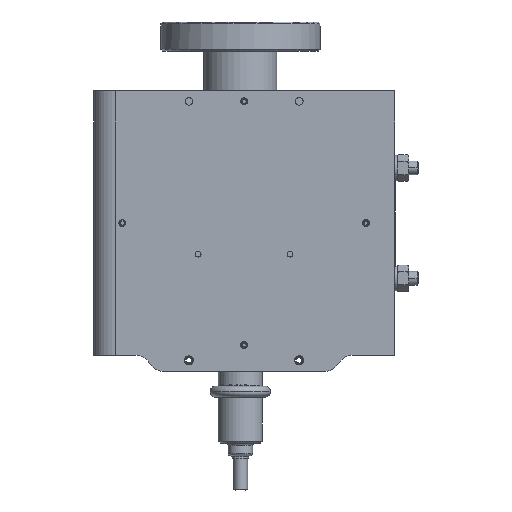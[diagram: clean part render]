
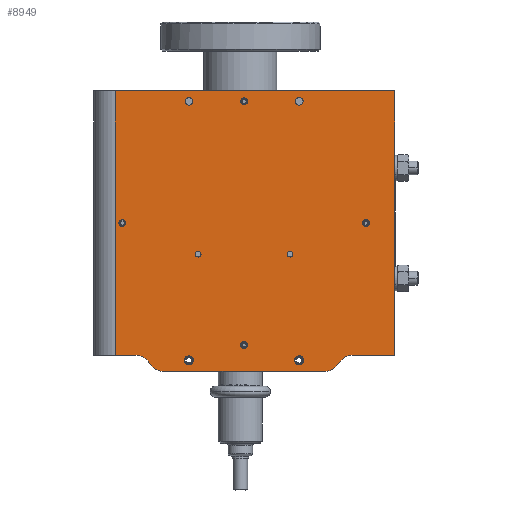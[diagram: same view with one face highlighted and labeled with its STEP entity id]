
A CAD part, front view. The second image highlights one B-rep face of the part: STEP entity #8949.
In plain terms, the highlighted planar face has unit normal (0, -1, 0).
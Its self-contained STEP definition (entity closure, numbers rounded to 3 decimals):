
#37=CARTESIAN_POINT('',(30.524,3.446,-145.));
#38=DIRECTION('',(0.,-1.,0.));
#39=DIRECTION('',(-0.866,0.,-0.5));
#40=AXIS2_PLACEMENT_3D('',#37,#38,#39);
#42=DIRECTION('',(1.,0.,0.));
#43=VECTOR('',#42,8.875);
#44=CARTESIAN_POINT('',(9.525,3.446,-145.));
#45=LINE('',#44,#43);
#46=DIRECTION('',(-1.,0.,0.));
#47=VECTOR('',#46,18.4);
#48=CARTESIAN_POINT('',(131.,3.446,-145.));
#49=LINE('',#48,#47);
#50=CARTESIAN_POINT('',(100.476,3.446,-145.));
#51=DIRECTION('',(0.,-1.,0.));
#52=DIRECTION('',(0.,0.,-1.));
#53=AXIS2_PLACEMENT_3D('',#50,#51,#52);
#55=DIRECTION('',(-1.,0.,0.));
#56=VECTOR('',#55,69.951);
#57=CARTESIAN_POINT('',(100.476,3.446,-152.));
#58=LINE('',#57,#56);
#59=CARTESIAN_POINT('',(12.5,3.446,-87.5));
#60=DIRECTION('',(0.,1.,0.));
#61=DIRECTION('',(-1.,0.,0.));
#62=AXIS2_PLACEMENT_3D('',#59,#60,#61);
#64=CARTESIAN_POINT('',(12.5,3.446,-87.5));
#65=DIRECTION('',(0.,1.,0.));
#66=DIRECTION('',(1.,0.,0.));
#67=AXIS2_PLACEMENT_3D('',#64,#65,#66);
#69=CARTESIAN_POINT('',(65.5,3.446,-140.5));
#70=DIRECTION('',(0.,1.,0.));
#71=DIRECTION('',(-1.,0.,0.));
#72=AXIS2_PLACEMENT_3D('',#69,#70,#71);
#74=CARTESIAN_POINT('',(65.5,3.446,-140.5));
#75=DIRECTION('',(0.,1.,0.));
#76=DIRECTION('',(1.,0.,0.));
#77=AXIS2_PLACEMENT_3D('',#74,#75,#76);
#79=CARTESIAN_POINT('',(65.5,3.446,-34.5));
#80=DIRECTION('',(0.,1.,0.));
#81=DIRECTION('',(-1.,0.,0.));
#82=AXIS2_PLACEMENT_3D('',#79,#80,#81);
#84=CARTESIAN_POINT('',(65.5,3.446,-34.5));
#85=DIRECTION('',(0.,1.,0.));
#86=DIRECTION('',(1.,0.,0.));
#87=AXIS2_PLACEMENT_3D('',#84,#85,#86);
#89=CARTESIAN_POINT('',(118.5,3.446,-87.5));
#90=DIRECTION('',(0.,1.,0.));
#91=DIRECTION('',(-1.,0.,0.));
#92=AXIS2_PLACEMENT_3D('',#89,#90,#91);
#94=CARTESIAN_POINT('',(118.5,3.446,-87.5));
#95=DIRECTION('',(0.,1.,0.));
#96=DIRECTION('',(1.,0.,0.));
#97=AXIS2_PLACEMENT_3D('',#94,#95,#96);
#99=CARTESIAN_POINT('',(89.5,3.446,-34.5));
#100=DIRECTION('',(0.,1.,0.));
#101=DIRECTION('',(-1.,0.,0.));
#102=AXIS2_PLACEMENT_3D('',#99,#100,#101);
#104=CARTESIAN_POINT('',(89.5,3.446,-34.5));
#105=DIRECTION('',(0.,1.,0.));
#106=DIRECTION('',(1.,0.,0.));
#107=AXIS2_PLACEMENT_3D('',#104,#105,#106);
#109=CARTESIAN_POINT('',(41.5,3.446,-34.5));
#110=DIRECTION('',(0.,1.,0.));
#111=DIRECTION('',(-1.,0.,0.));
#112=AXIS2_PLACEMENT_3D('',#109,#110,#111);
#114=CARTESIAN_POINT('',(41.5,3.446,-34.5));
#115=DIRECTION('',(0.,1.,0.));
#116=DIRECTION('',(1.,0.,0.));
#117=AXIS2_PLACEMENT_3D('',#114,#115,#116);
#119=CARTESIAN_POINT('',(85.5,3.446,-101.));
#120=DIRECTION('',(0.,1.,0.));
#121=DIRECTION('',(-1.,0.,0.));
#122=AXIS2_PLACEMENT_3D('',#119,#120,#121);
#124=CARTESIAN_POINT('',(85.5,3.446,-101.));
#125=DIRECTION('',(0.,1.,0.));
#126=DIRECTION('',(1.,0.,0.));
#127=AXIS2_PLACEMENT_3D('',#124,#125,#126);
#129=CARTESIAN_POINT('',(45.5,3.446,-101.));
#130=DIRECTION('',(0.,1.,0.));
#131=DIRECTION('',(-1.,0.,0.));
#132=AXIS2_PLACEMENT_3D('',#129,#130,#131);
#134=CARTESIAN_POINT('',(45.5,3.446,-101.));
#135=DIRECTION('',(0.,1.,0.));
#136=DIRECTION('',(1.,0.,0.));
#137=AXIS2_PLACEMENT_3D('',#134,#135,#136);
#139=CARTESIAN_POINT('',(41.5,3.446,-147.2));
#140=DIRECTION('',(0.,1.,0.));
#141=DIRECTION('',(-1.,0.,0.));
#142=AXIS2_PLACEMENT_3D('',#139,#140,#141);
#144=CARTESIAN_POINT('',(41.5,3.446,-147.2));
#145=DIRECTION('',(0.,1.,0.));
#146=DIRECTION('',(1.,0.,0.));
#147=AXIS2_PLACEMENT_3D('',#144,#145,#146);
#149=CARTESIAN_POINT('',(89.5,3.446,-147.2));
#150=DIRECTION('',(0.,1.,0.));
#151=DIRECTION('',(-1.,0.,0.));
#152=AXIS2_PLACEMENT_3D('',#149,#150,#151);
#154=CARTESIAN_POINT('',(89.5,3.446,-147.2));
#155=DIRECTION('',(0.,1.,0.));
#156=DIRECTION('',(1.,0.,0.));
#157=AXIS2_PLACEMENT_3D('',#154,#155,#156);
#331=CARTESIAN_POINT('',(112.6,3.446,-152.));
#332=DIRECTION('',(0.,1.,0.));
#333=DIRECTION('',(-0.866,0.,0.5));
#334=AXIS2_PLACEMENT_3D('',#331,#332,#333);
#349=DIRECTION('',(0.,0.,1.));
#350=VECTOR('',#349,115.);
#351=CARTESIAN_POINT('',(131.,3.446,-145.));
#352=LINE('',#351,#350);
#413=DIRECTION('',(1.,0.,0.));
#414=VECTOR('',#413,121.475);
#415=CARTESIAN_POINT('',(9.525,3.446,-30.));
#416=LINE('',#415,#414);
#452=DIRECTION('',(0.,0.,-1.));
#453=VECTOR('',#452,115.);
#454=CARTESIAN_POINT('',(9.525,3.446,-30.));
#455=LINE('',#454,#453);
#3362=CARTESIAN_POINT('',(18.4,3.446,-152.));
#3363=DIRECTION('',(0.,1.,0.));
#3364=DIRECTION('',(0.,0.,1.));
#3365=AXIS2_PLACEMENT_3D('',#3362,#3363,#3364);
#7958=CARTESIAN_POINT('',(9.525,3.446,-30.));
#7960=VERTEX_POINT('',#7958);
#7961=CARTESIAN_POINT('',(131.,3.446,-30.));
#7962=VERTEX_POINT('',#7961);
#7967=CARTESIAN_POINT('',(11.,3.446,-87.5));
#7968=CARTESIAN_POINT('',(14.,3.446,-87.5));
#7969=VERTEX_POINT('',#7967);
#7970=VERTEX_POINT('',#7968);
#7971=CARTESIAN_POINT('',(64.,3.446,-140.5));
#7972=CARTESIAN_POINT('',(67.,3.446,-140.5));
#7973=VERTEX_POINT('',#7971);
#7974=VERTEX_POINT('',#7972);
#7975=CARTESIAN_POINT('',(64.,3.446,-34.5));
#7976=CARTESIAN_POINT('',(67.,3.446,-34.5));
#7977=VERTEX_POINT('',#7975);
#7978=VERTEX_POINT('',#7976);
#7979=CARTESIAN_POINT('',(117.,3.446,-87.5));
#7980=CARTESIAN_POINT('',(120.,3.446,-87.5));
#7981=VERTEX_POINT('',#7979);
#7982=VERTEX_POINT('',#7980);
#7983=CARTESIAN_POINT('',(87.85,3.446,-34.5));
#7984=CARTESIAN_POINT('',(91.15,3.446,-34.5));
#7985=VERTEX_POINT('',#7983);
#7986=VERTEX_POINT('',#7984);
#7991=CARTESIAN_POINT('',(39.85,3.446,-34.5));
#7992=CARTESIAN_POINT('',(43.15,3.446,-34.5));
#7993=VERTEX_POINT('',#7991);
#7994=VERTEX_POINT('',#7992);
#8008=CARTESIAN_POINT('',(9.525,3.446,-145.));
#8010=VERTEX_POINT('',#8008);
#8013=CARTESIAN_POINT('',(131.,3.446,-145.));
#8014=VERTEX_POINT('',#8013);
#8017=CARTESIAN_POINT('',(112.6,3.446,-145.));
#8018=VERTEX_POINT('',#8017);
#8019=CARTESIAN_POINT('',(18.4,3.446,-145.));
#8020=VERTEX_POINT('',#8019);
#8029=CARTESIAN_POINT('',(24.462,3.446,-148.5));
#8030=VERTEX_POINT('',#8029);
#8031=CARTESIAN_POINT('',(30.524,3.446,-152.));
#8032=VERTEX_POINT('',#8031);
#8033=CARTESIAN_POINT('',(100.476,3.446,-152.));
#8034=CARTESIAN_POINT('',(106.538,3.446,-148.5));
#8035=VERTEX_POINT('',#8033);
#8036=VERTEX_POINT('',#8034);
#8041=CARTESIAN_POINT('',(39.5,3.446,-147.2));
#8042=CARTESIAN_POINT('',(43.5,3.446,-147.2));
#8043=VERTEX_POINT('',#8041);
#8044=VERTEX_POINT('',#8042);
#8047=CARTESIAN_POINT('',(87.5,3.446,-147.2));
#8048=CARTESIAN_POINT('',(91.5,3.446,-147.2));
#8049=VERTEX_POINT('',#8047);
#8050=VERTEX_POINT('',#8048);
#8053=CARTESIAN_POINT('',(84.25,3.446,-101.));
#8054=CARTESIAN_POINT('',(86.75,3.446,-101.));
#8055=VERTEX_POINT('',#8053);
#8056=VERTEX_POINT('',#8054);
#8057=CARTESIAN_POINT('',(44.25,3.446,-101.));
#8058=CARTESIAN_POINT('',(46.75,3.446,-101.));
#8059=VERTEX_POINT('',#8057);
#8060=VERTEX_POINT('',#8058);
#8864=CARTESIAN_POINT('',(9.525,3.446,-30.));
#8865=DIRECTION('',(0.,-1.,0.));
#8866=DIRECTION('',(1.,0.,0.));
#8867=AXIS2_PLACEMENT_3D('',#8864,#8865,#8866);
#8868=PLANE('',#8867);
#8870=ORIENTED_EDGE('',*,*,#8869,.F.);
#8872=ORIENTED_EDGE('',*,*,#8871,.F.);
#8874=ORIENTED_EDGE('',*,*,#8873,.F.);
#8876=ORIENTED_EDGE('',*,*,#8875,.F.);
#8878=ORIENTED_EDGE('',*,*,#8877,.T.);
#8880=ORIENTED_EDGE('',*,*,#8879,.F.);
#8882=ORIENTED_EDGE('',*,*,#8881,.T.);
#8884=ORIENTED_EDGE('',*,*,#8883,.F.);
#8886=ORIENTED_EDGE('',*,*,#8885,.F.);
#8888=ORIENTED_EDGE('',*,*,#8887,.T.);
#8889=EDGE_LOOP('',(#8870,#8872,#8874,#8876,#8878,#8880,#8882,#8884,#8886,
#8888));
#8890=FACE_OUTER_BOUND('',#8889,.F.);
#8892=ORIENTED_EDGE('',*,*,#8891,.F.);
#8894=ORIENTED_EDGE('',*,*,#8893,.F.);
#8895=EDGE_LOOP('',(#8892,#8894));
#8896=FACE_BOUND('',#8895,.F.);
#8898=ORIENTED_EDGE('',*,*,#8897,.F.);
#8900=ORIENTED_EDGE('',*,*,#8899,.F.);
#8901=EDGE_LOOP('',(#8898,#8900));
#8902=FACE_BOUND('',#8901,.F.);
#8904=ORIENTED_EDGE('',*,*,#8903,.F.);
#8906=ORIENTED_EDGE('',*,*,#8905,.F.);
#8907=EDGE_LOOP('',(#8904,#8906));
#8908=FACE_BOUND('',#8907,.F.);
#8909=ORIENTED_EDGE('',*,*,#8837,.F.);
#8910=ORIENTED_EDGE('',*,*,#8858,.F.);
#8911=EDGE_LOOP('',(#8909,#8910));
#8912=FACE_BOUND('',#8911,.F.);
#8914=ORIENTED_EDGE('',*,*,#8913,.F.);
#8916=ORIENTED_EDGE('',*,*,#8915,.F.);
#8917=EDGE_LOOP('',(#8914,#8916));
#8918=FACE_BOUND('',#8917,.F.);
#8920=ORIENTED_EDGE('',*,*,#8919,.F.);
#8922=ORIENTED_EDGE('',*,*,#8921,.F.);
#8923=EDGE_LOOP('',(#8920,#8922));
#8924=FACE_BOUND('',#8923,.F.);
#8926=ORIENTED_EDGE('',*,*,#8925,.F.);
#8928=ORIENTED_EDGE('',*,*,#8927,.F.);
#8929=EDGE_LOOP('',(#8926,#8928));
#8930=FACE_BOUND('',#8929,.F.);
#8932=ORIENTED_EDGE('',*,*,#8931,.F.);
#8934=ORIENTED_EDGE('',*,*,#8933,.F.);
#8935=EDGE_LOOP('',(#8932,#8934));
#8936=FACE_BOUND('',#8935,.F.);
#8938=ORIENTED_EDGE('',*,*,#8937,.F.);
#8940=ORIENTED_EDGE('',*,*,#8939,.F.);
#8941=EDGE_LOOP('',(#8938,#8940));
#8942=FACE_BOUND('',#8941,.F.);
#8944=ORIENTED_EDGE('',*,*,#8943,.F.);
#8946=ORIENTED_EDGE('',*,*,#8945,.F.);
#8947=EDGE_LOOP('',(#8944,#8946));
#8948=FACE_BOUND('',#8947,.F.);
#8949=ADVANCED_FACE('',(#8890,#8896,#8902,#8908,#8912,#8918,#8924,#8930,#8936,
#8942,#8948),#8868,.T.);
#41=CIRCLE('',#40,7.);
#54=CIRCLE('',#53,7.);
#63=CIRCLE('',#62,1.5);
#68=CIRCLE('',#67,1.5);
#73=CIRCLE('',#72,1.5);
#78=CIRCLE('',#77,1.5);
#83=CIRCLE('',#82,1.5);
#88=CIRCLE('',#87,1.5);
#93=CIRCLE('',#92,1.5);
#98=CIRCLE('',#97,1.5);
#103=CIRCLE('',#102,1.65);
#108=CIRCLE('',#107,1.65);
#113=CIRCLE('',#112,1.65);
#118=CIRCLE('',#117,1.65);
#123=CIRCLE('',#122,1.25);
#128=CIRCLE('',#127,1.25);
#133=CIRCLE('',#132,1.25);
#138=CIRCLE('',#137,1.25);
#143=CIRCLE('',#142,2.);
#148=CIRCLE('',#147,2.);
#153=CIRCLE('',#152,2.);
#158=CIRCLE('',#157,2.);
#335=CIRCLE('',#334,7.);
#3366=CIRCLE('',#3365,7.);
#8837=EDGE_CURVE('',#7981,#7982,#93,.T.);
#8858=EDGE_CURVE('',#7982,#7981,#98,.T.);
#8869=EDGE_CURVE('',#8030,#8032,#41,.T.);
#8871=EDGE_CURVE('',#8020,#8030,#3366,.T.);
#8873=EDGE_CURVE('',#8010,#8020,#45,.T.);
#8875=EDGE_CURVE('',#7960,#8010,#455,.T.);
#8877=EDGE_CURVE('',#7960,#7962,#416,.T.);
#8879=EDGE_CURVE('',#8014,#7962,#352,.T.);
#8881=EDGE_CURVE('',#8014,#8018,#49,.T.);
#8883=EDGE_CURVE('',#8036,#8018,#335,.T.);
#8885=EDGE_CURVE('',#8035,#8036,#54,.T.);
#8887=EDGE_CURVE('',#8035,#8032,#58,.T.);
#8891=EDGE_CURVE('',#7969,#7970,#63,.T.);
#8893=EDGE_CURVE('',#7970,#7969,#68,.T.);
#8897=EDGE_CURVE('',#7973,#7974,#73,.T.);
#8899=EDGE_CURVE('',#7974,#7973,#78,.T.);
#8903=EDGE_CURVE('',#7977,#7978,#83,.T.);
#8905=EDGE_CURVE('',#7978,#7977,#88,.T.);
#8913=EDGE_CURVE('',#7985,#7986,#103,.T.);
#8915=EDGE_CURVE('',#7986,#7985,#108,.T.);
#8919=EDGE_CURVE('',#7993,#7994,#113,.T.);
#8921=EDGE_CURVE('',#7994,#7993,#118,.T.);
#8925=EDGE_CURVE('',#8055,#8056,#123,.T.);
#8927=EDGE_CURVE('',#8056,#8055,#128,.T.);
#8931=EDGE_CURVE('',#8059,#8060,#133,.T.);
#8933=EDGE_CURVE('',#8060,#8059,#138,.T.);
#8937=EDGE_CURVE('',#8043,#8044,#143,.T.);
#8939=EDGE_CURVE('',#8044,#8043,#148,.T.);
#8943=EDGE_CURVE('',#8049,#8050,#153,.T.);
#8945=EDGE_CURVE('',#8050,#8049,#158,.T.);
